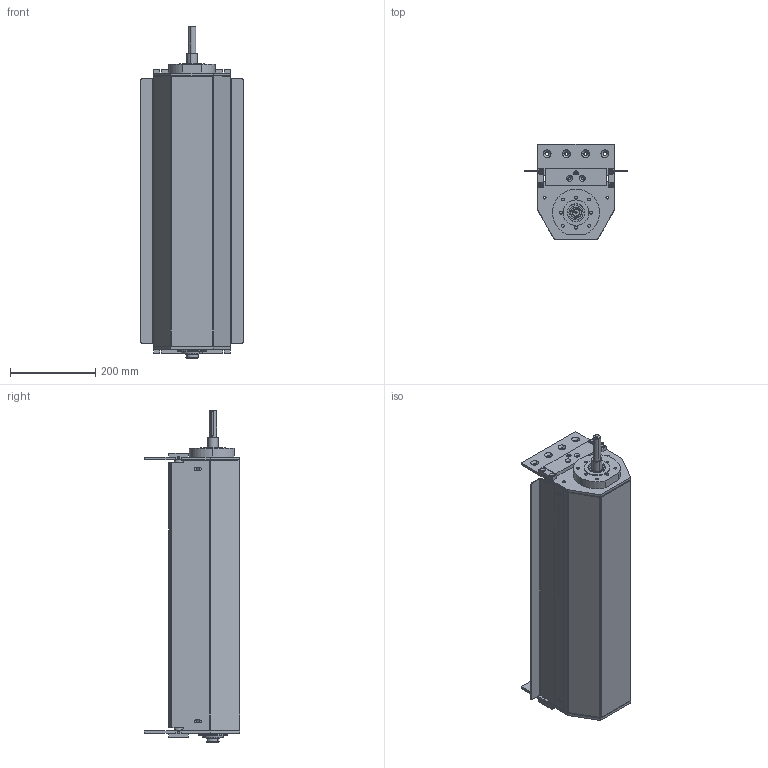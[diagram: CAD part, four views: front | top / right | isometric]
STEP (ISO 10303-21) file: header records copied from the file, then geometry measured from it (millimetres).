
FILE_DESCRIPTION (( 'STEP AP203' ), '1' );
FILE_NAME ('084.095.KCS.44.600.STEP', '2016-11-08T08:13:02', ( 'Utente' ), ( '' ), 'SwSTEP 2.0', 'SolidWorks 2016', '' );
FILE_SCHEMA (( 'CONFIG_CONTROL_DESIGN' ));
Length unit declared in the file: millimetre
Products named in the file (1): 084.095.KCS.44.600
Bounding box: 240 x 223 x 777 mm (x, y, z)
Surface area: 1410372 mm2 (no closed solid volume)
Topology: 0 solids, 47 shells, 467 faces, 1619 edges, 1180 vertices
Faces by surface type: plane 204, cylinder 191, cone 58, torus 10, sphere 4
Entity records: 17735 total; most frequent: CARTESIAN_POINT 3323, DIRECTION 3130, ORIENTED_EDGE 2502, EDGE_CURVE 1615, VERTEX_POINT 1178, AXIS2_PLACEMENT_3D 1049, VECTOR 1032, LINE 1032
